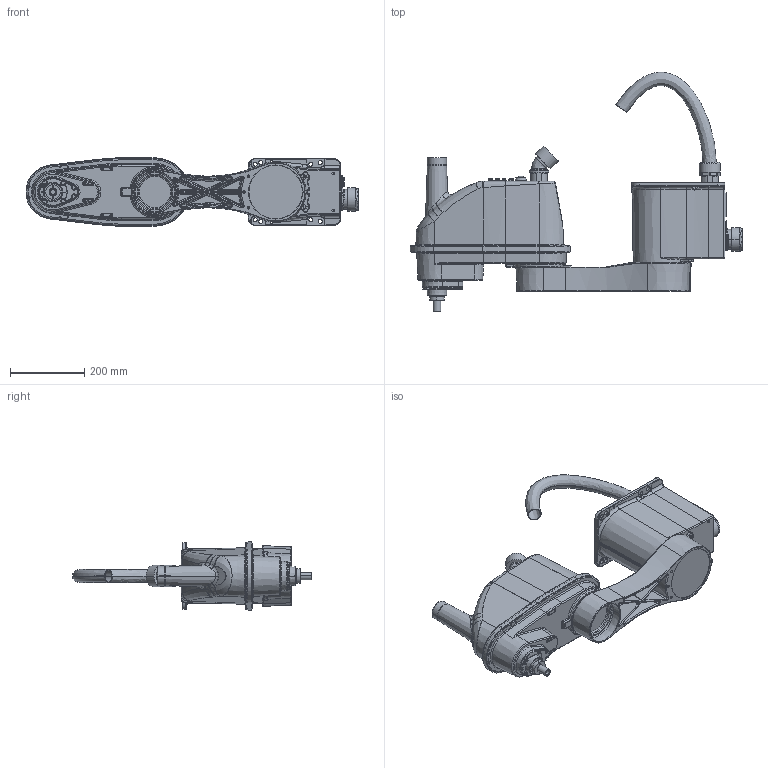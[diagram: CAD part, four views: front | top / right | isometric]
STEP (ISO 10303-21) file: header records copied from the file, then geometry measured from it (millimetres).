
FILE_DESCRIPTION((''),'2;1');
FILE_NAME('THE600-T_3D_ASM','2024-06-10T15:26:59',('15575'),(''),'CREO PARAMETRIC BY PTC INC, 2020454','CREO PARAMETRIC BY PTC INC, 2020454','');
FILE_SCHEMA(('AUTOMOTIVE_DESIGN { 1 0 10303 214 1 1 1 1 }'));
Length unit declared in the file: millimetre
Products named in the file (5): THE600-T_1ST_ARM; THE600-T_BALL_SCREW; THE600-T_BASE2; THE600-T_2ND_ARM2; THE600-T_3D_ASM
Assembly tree (4 placements, depth 2):
  THE600-T_3D_ASM
    THE600-T_1ST_ARM
    THE600-T_BALL_SCREW
    THE600-T_BASE2
    THE600-T_2ND_ARM2
Bounding box: 894.73 x 644.57 x 184 mm (x, y, z)
Volume: 6393122.6 mm3; surface area: 1633354.4 mm2
Topology: 7 solids, 20 shells, 4634 faces, 11511 edges, 7073 vertices
Faces by surface type: cylinder 1602, plane 1355, cone 815, bspline 383, torus 361, sphere 114, extrusion 2, revolution 2
Entity records: 210755 total; most frequent: CARTESIAN_POINT 60585, ORIENTED_EDGE 22537, DIRECTION 21047, EDGE_CURVE 11454, PRESENTATION_STYLE_ASSIGNMENT 10226, STYLED_ITEM 8721, AXIS2_PLACEMENT_3D 8659, VERTEX_POINT 7073
